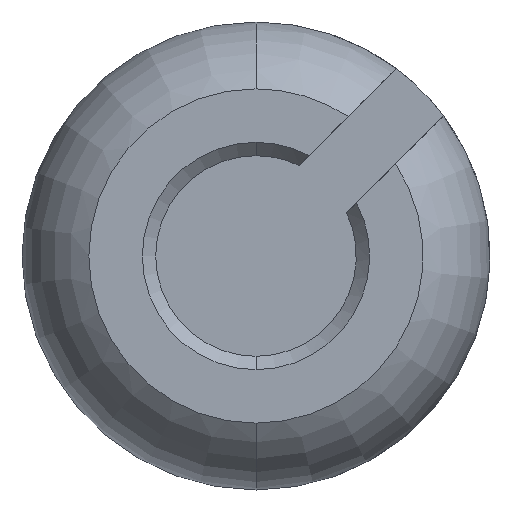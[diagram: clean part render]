
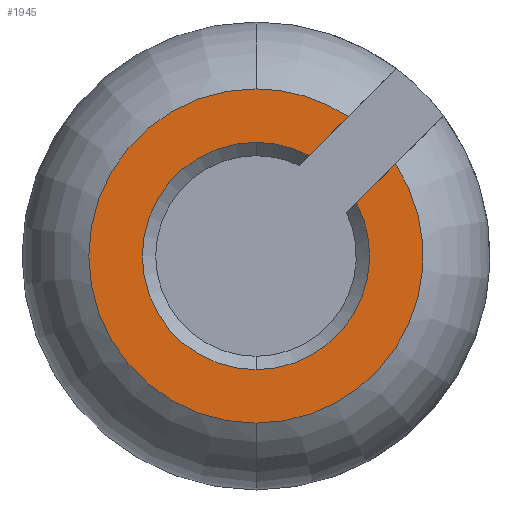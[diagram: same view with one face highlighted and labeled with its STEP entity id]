
A CAD part, front view. The second image highlights one B-rep face of the part: STEP entity #1945.
In plain terms, the highlighted planar face has unit normal (0, -1, 0).
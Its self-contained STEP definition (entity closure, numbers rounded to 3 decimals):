
#30 = DIRECTION ( 'NONE',  ( 0., 0., -1. ) ) ;
#32 = DIRECTION ( 'NONE',  ( 0., 0., -1. ) ) ;
#57 = AXIS2_PLACEMENT_3D ( 'NONE', #271, #62, #916 ) ;
#62 = DIRECTION ( 'NONE',  ( 0., 1., 0. ) ) ;
#75 = DIRECTION ( 'NONE',  ( 0., 0., -1. ) ) ;
#162 = CIRCLE ( 'NONE', #1204, 2.5 ) ;
#196 = CIRCLE ( 'NONE', #1676, 1.7 ) ;
#240 = FACE_OUTER_BOUND ( 'NONE', #412, .T. ) ;
#250 = VERTEX_POINT ( 'NONE', #1390 ) ;
#271 = CARTESIAN_POINT ( 'NONE',  ( 0., 0., 0. ) ) ;
#330 = AXIS2_PLACEMENT_3D ( 'NONE', #751, #1273, #75 ) ;
#340 = EDGE_CURVE ( 'NONE', #628, #2178, #1343, .T. ) ;
#412 = EDGE_LOOP ( 'NONE', ( #1269, #918, #1528, #928, #2159, #613, #1550, #925 ) ) ;
#454 = VECTOR ( 'NONE', #1403, 1000. ) ;
#560 = CIRCLE ( 'NONE', #57, 1.7 ) ;
#613 = ORIENTED_EDGE ( 'NONE', *, *, #904, .T. ) ;
#628 = VERTEX_POINT ( 'NONE', #812 ) ;
#629 = DIRECTION ( 'NONE',  ( 0., 0., -1. ) ) ;
#657 = CIRCLE ( 'NONE', #330, 2.5 ) ;
#660 = CARTESIAN_POINT ( 'NONE',  ( 0., 0., -1.7 ) ) ;
#662 = VECTOR ( 'NONE', #1970, 1000. ) ;
#751 = CARTESIAN_POINT ( 'NONE',  ( 0., 0., 0. ) ) ;
#772 = LINE ( 'NONE', #954, #662 ) ;
#812 = CARTESIAN_POINT ( 'NONE',  ( 0., 0., 1.7 ) ) ;
#867 = CARTESIAN_POINT ( 'NONE',  ( 0., 0., 0. ) ) ;
#904 = EDGE_CURVE ( 'NONE', #1192, #1373, #657, .T. ) ;
#916 = DIRECTION ( 'NONE',  ( 0., 0., -1. ) ) ;
#918 = ORIENTED_EDGE ( 'NONE', *, *, #1662, .T. ) ;
#925 = ORIENTED_EDGE ( 'NONE', *, *, #2131, .T. ) ;
#928 = ORIENTED_EDGE ( 'NONE', *, *, #340, .T. ) ;
#939 = CARTESIAN_POINT ( 'NONE',  ( 0., 0., 2.5 ) ) ;
#954 = CARTESIAN_POINT ( 'NONE',  ( 1.354, 0., 0.646 ) ) ;
#979 = DIRECTION ( 'NONE',  ( 0., -1., 0. ) ) ;
#1008 = DIRECTION ( 'NONE',  ( 0., -1., 0. ) ) ;
#1030 = CIRCLE ( 'NONE', #1892, 2.5 ) ;
#1033 = CARTESIAN_POINT ( 'NONE',  ( 0.795, 0., 1.502 ) ) ;
#1106 = DIRECTION ( 'NONE',  ( 0., 1., 0. ) ) ;
#1107 = EDGE_CURVE ( 'NONE', #1373, #1475, #162, .T. ) ;
#1123 = EDGE_CURVE ( 'NONE', #2178, #1192, #1822, .T. ) ;
#1149 = EDGE_CURVE ( 'NONE', #1756, #250, #772, .T. ) ;
#1192 = VERTEX_POINT ( 'NONE', #2152 ) ;
#1204 = AXIS2_PLACEMENT_3D ( 'NONE', #1222, #1008, #1521 ) ;
#1222 = CARTESIAN_POINT ( 'NONE',  ( 0., 0., 0. ) ) ;
#1269 = ORIENTED_EDGE ( 'NONE', *, *, #1149, .T. ) ;
#1273 = DIRECTION ( 'NONE',  ( 0., -1., 0. ) ) ;
#1275 = CARTESIAN_POINT ( 'NONE',  ( 2.086, 0., 1.378 ) ) ;
#1343 = CIRCLE ( 'NONE', #1851, 1.7 ) ;
#1373 = VERTEX_POINT ( 'NONE', #939 ) ;
#1390 = CARTESIAN_POINT ( 'NONE',  ( 1.502, 0., 0.795 ) ) ;
#1403 = DIRECTION ( 'NONE',  ( 0.707, 0., 0.707 ) ) ;
#1475 = VERTEX_POINT ( 'NONE', #1491 ) ;
#1491 = CARTESIAN_POINT ( 'NONE',  ( 0., 0., -2.5 ) ) ;
#1517 = PLANE ( 'NONE',  #1641 ) ;
#1521 = DIRECTION ( 'NONE',  ( 0., 0., -1. ) ) ;
#1528 = ORIENTED_EDGE ( 'NONE', *, *, #1831, .T. ) ;
#1530 = VERTEX_POINT ( 'NONE', #660 ) ;
#1543 = DIRECTION ( 'NONE',  ( 0., -1., 0. ) ) ;
#1550 = ORIENTED_EDGE ( 'NONE', *, *, #1107, .T. ) ;
#1569 = DIRECTION ( 'NONE',  ( 0., 1., 0. ) ) ;
#1576 = CARTESIAN_POINT ( 'NONE',  ( 0., 0., 0. ) ) ;
#1641 = AXIS2_PLACEMENT_3D ( 'NONE', #2221, #979, #2027 ) ;
#1662 = EDGE_CURVE ( 'NONE', #250, #1530, #196, .T. ) ;
#1663 = CARTESIAN_POINT ( 'NONE',  ( 0.646, 0., 1.354 ) ) ;
#1676 = AXIS2_PLACEMENT_3D ( 'NONE', #867, #1569, #32 ) ;
#1756 = VERTEX_POINT ( 'NONE', #1275 ) ;
#1822 = LINE ( 'NONE', #1663, #454 ) ;
#1831 = EDGE_CURVE ( 'NONE', #1530, #628, #560, .T. ) ;
#1851 = AXIS2_PLACEMENT_3D ( 'NONE', #2167, #1106, #629 ) ;
#1892 = AXIS2_PLACEMENT_3D ( 'NONE', #1576, #1543, #30 ) ;
#1945 = ADVANCED_FACE ( 'NONE', ( #240 ), #1517, .T. ) ;
#1970 = DIRECTION ( 'NONE',  ( -0.707, 0., -0.707 ) ) ;
#2027 = DIRECTION ( 'NONE',  ( 0., 0., -1. ) ) ;
#2131 = EDGE_CURVE ( 'NONE', #1475, #1756, #1030, .T. ) ;
#2152 = CARTESIAN_POINT ( 'NONE',  ( 1.378, 0., 2.086 ) ) ;
#2159 = ORIENTED_EDGE ( 'NONE', *, *, #1123, .T. ) ;
#2167 = CARTESIAN_POINT ( 'NONE',  ( 0., 0., 0. ) ) ;
#2178 = VERTEX_POINT ( 'NONE', #1033 ) ;
#2221 = CARTESIAN_POINT ( 'NONE',  ( 0., 0., 0. ) ) ;
